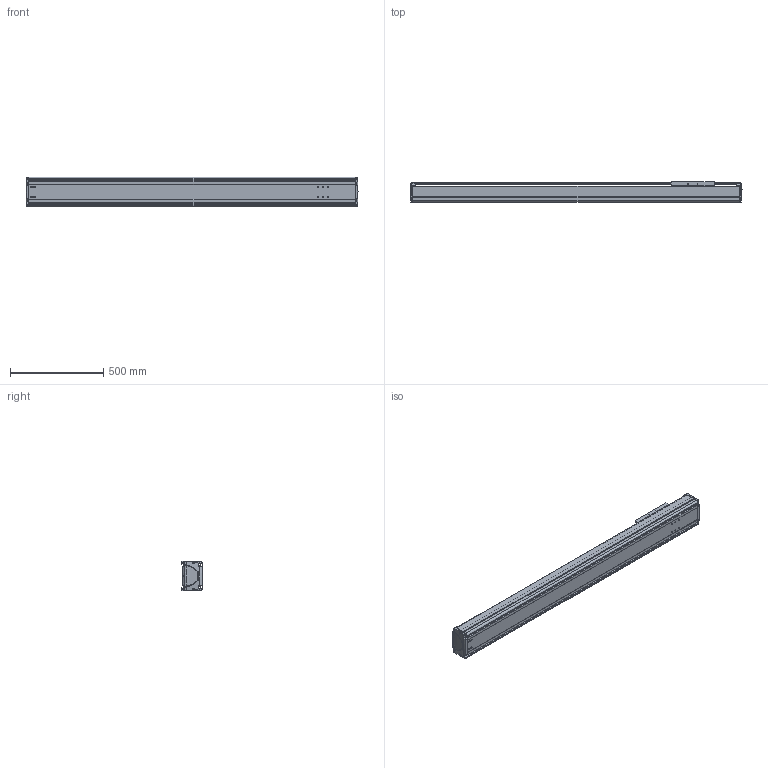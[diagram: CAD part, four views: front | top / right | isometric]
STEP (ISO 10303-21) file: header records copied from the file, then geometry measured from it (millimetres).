
FILE_DESCRIPTION((''),'2;1');
FILE_NAME('BE50G-ST-L_N-D5_IGS_PRT','2017-06-18T',(' '),(''),'PRO/ENGINEER BY PARAMETRIC TECHNOLOGY CORPORATION, 2015030','PRO/ENGINEER BY PARAMETRIC TECHNOLOGY CORPORATION, 2015030','');
FILE_SCHEMA(('CONFIG_CONTROL_DESIGN'));
Length unit declared in the file: millimetre
Products named in the file (1): BE50G-ST-L_N-D5_IGS_PRT
Bounding box: 1779.98 x 110 x 160 mm (x, y, z)
Volume: 7441507.4 mm3; surface area: 2695408.6 mm2
Topology: 3 solids, 112 shells, 1754 faces, 4718 edges, 3049 vertices
Faces by surface type: cylinder 820, plane 611, bspline 102, cone 94, torus 87, sphere 40
Entity records: 61037 total; most frequent: CARTESIAN_POINT 17650, ORIENTED_EDGE 8938, DIRECTION 8824, EDGE_CURVE 4684, AXIS2_PLACEMENT_3D 3328, VERTEX_POINT 3041, VECTOR 2168, LINE 2168
